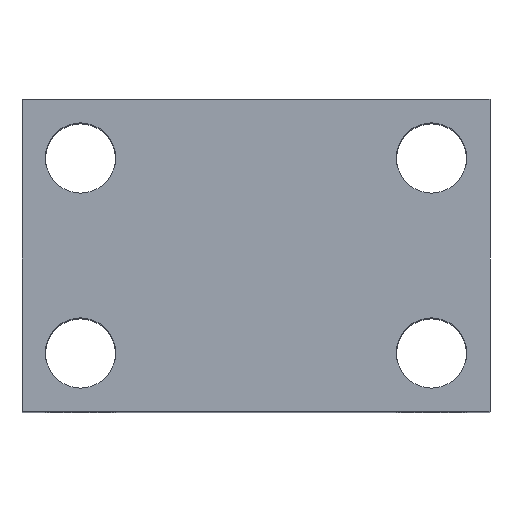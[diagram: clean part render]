
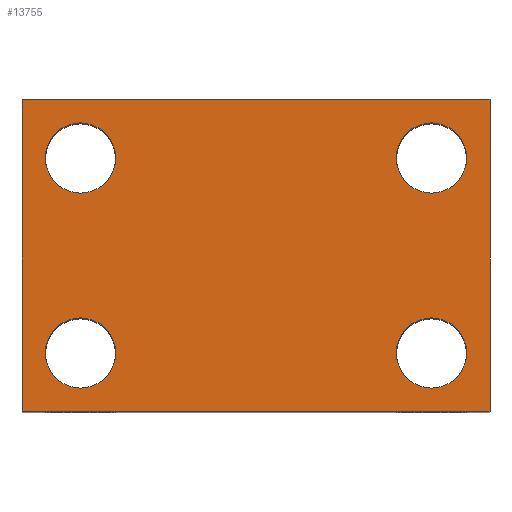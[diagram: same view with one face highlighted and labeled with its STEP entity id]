
A CAD part, top view. The second image highlights one B-rep face of the part: STEP entity #13755.
In plain terms, the highlighted planar face has unit normal (0, 0, 1).
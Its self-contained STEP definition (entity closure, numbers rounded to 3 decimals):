
#413 = DIRECTION ( 'NONE',  ( 0., -1., 0. ) ) ;
#445 = CARTESIAN_POINT ( 'NONE',  ( 27., 32.5, 40. ) ) ;
#467 = AXIS2_PLACEMENT_3D ( 'NONE', #13522, #5361, #14906 ) ;
#518 = AXIS2_PLACEMENT_3D ( 'NONE', #5991, #15585, #7338 ) ;
#599 = EDGE_CURVE ( 'NONE', #2983, #1785, #6559, .T. ) ;
#1144 = CARTESIAN_POINT ( 'NONE',  ( -30., 0., 40. ) ) ;
#1333 = EDGE_CURVE ( 'NONE', #9716, #10566, #11053, .T. ) ;
#1338 = DIRECTION ( 'NONE',  ( -1., 0., 0. ) ) ;
#1384 = CARTESIAN_POINT ( 'NONE',  ( 30., 40., 40. ) ) ;
#1390 = LINE ( 'NONE', #1384, #12254 ) ;
#1785 = VERTEX_POINT ( 'NONE', #10095 ) ;
#1889 = AXIS2_PLACEMENT_3D ( 'NONE', #10500, #2331, #11868 ) ;
#2020 = EDGE_LOOP ( 'NONE', ( #2799, #5169 ) ) ;
#2238 = ORIENTED_EDGE ( 'NONE', *, *, #11308, .T. ) ;
#2331 = DIRECTION ( 'NONE',  ( 0., 0., -1. ) ) ;
#2418 = AXIS2_PLACEMENT_3D ( 'NONE', #13707, #4185, #12339 ) ;
#2578 = EDGE_LOOP ( 'NONE', ( #4053, #2651 ) ) ;
#2651 = ORIENTED_EDGE ( 'NONE', *, *, #599, .T. ) ;
#2736 = DIRECTION ( 'NONE',  ( 0., -1., 0. ) ) ;
#2786 = ORIENTED_EDGE ( 'NONE', *, *, #3379, .T. ) ;
#2799 = ORIENTED_EDGE ( 'NONE', *, *, #17257, .T. ) ;
#2963 = VERTEX_POINT ( 'NONE', #9382 ) ;
#2983 = VERTEX_POINT ( 'NONE', #6708 ) ;
#3193 = AXIS2_PLACEMENT_3D ( 'NONE', #4541, #14075, #5892 ) ;
#3207 = CARTESIAN_POINT ( 'NONE',  ( 27., 7.5, 40. ) ) ;
#3379 = EDGE_CURVE ( 'NONE', #10566, #9716, #9279, .T. ) ;
#3730 = LINE ( 'NONE', #5467, #7730 ) ;
#4053 = ORIENTED_EDGE ( 'NONE', *, *, #7753, .T. ) ;
#4148 = CIRCLE ( 'NONE', #8095, 4.5 ) ;
#4185 = DIRECTION ( 'NONE',  ( 0., 0., -1. ) ) ;
#4415 = FACE_BOUND ( 'NONE', #6412, .T. ) ;
#4541 = CARTESIAN_POINT ( 'NONE',  ( 22.5, 7.5, 40. ) ) ;
#4584 = ORIENTED_EDGE ( 'NONE', *, *, #6001, .T. ) ;
#4588 = PLANE ( 'NONE',  #13801 ) ;
#4915 = VECTOR ( 'NONE', #413, 1000. ) ;
#5169 = ORIENTED_EDGE ( 'NONE', *, *, #8064, .T. ) ;
#5205 = ORIENTED_EDGE ( 'NONE', *, *, #1333, .T. ) ;
#5361 = DIRECTION ( 'NONE',  ( 0., 0., -1. ) ) ;
#5467 = CARTESIAN_POINT ( 'NONE',  ( -30., 40., 40. ) ) ;
#5502 = ORIENTED_EDGE ( 'NONE', *, *, #17308, .F. ) ;
#5735 = EDGE_LOOP ( 'NONE', ( #4584, #5502, #7650, #2238 ) ) ;
#5892 = DIRECTION ( 'NONE',  ( -1., 0., 0. ) ) ;
#5933 = CARTESIAN_POINT ( 'NONE',  ( -30., 40., 40. ) ) ;
#5991 = CARTESIAN_POINT ( 'NONE',  ( -22.5, 7.5, 40. ) ) ;
#5997 = EDGE_LOOP ( 'NONE', ( #8961, #9920 ) ) ;
#6001 = EDGE_CURVE ( 'NONE', #10831, #9207, #16578, .T. ) ;
#6005 = CARTESIAN_POINT ( 'NONE',  ( -22.5, 32.5, 40. ) ) ;
#6412 = EDGE_LOOP ( 'NONE', ( #5205, #2786 ) ) ;
#6559 = CIRCLE ( 'NONE', #2418, 4.5 ) ;
#6708 = CARTESIAN_POINT ( 'NONE',  ( -18., 32.5, 40. ) ) ;
#7101 = CARTESIAN_POINT ( 'NONE',  ( 18., 32.5, 40. ) ) ;
#7172 = DIRECTION ( 'NONE',  ( -1., 0., 0. ) ) ;
#7276 = DIRECTION ( 'NONE',  ( -1., 0., 0. ) ) ;
#7338 = DIRECTION ( 'NONE',  ( -1., 0., 0. ) ) ;
#7350 = DIRECTION ( 'NONE',  ( -1., 0., 0. ) ) ;
#7650 = ORIENTED_EDGE ( 'NONE', *, *, #17415, .F. ) ;
#7730 = VECTOR ( 'NONE', #15022, 1000. ) ;
#7753 = EDGE_CURVE ( 'NONE', #1785, #2983, #4148, .T. ) ;
#7982 = FACE_BOUND ( 'NONE', #5997, .T. ) ;
#8025 = CARTESIAN_POINT ( 'NONE',  ( 30., 0., 40. ) ) ;
#8064 = EDGE_CURVE ( 'NONE', #16974, #2963, #8357, .T. ) ;
#8095 = AXIS2_PLACEMENT_3D ( 'NONE', #6005, #15599, #7350 ) ;
#8357 = CIRCLE ( 'NONE', #518, 4.5 ) ;
#8440 = AXIS2_PLACEMENT_3D ( 'NONE', #10687, #8735, #7172 ) ;
#8505 = CARTESIAN_POINT ( 'NONE',  ( 30., 40., 40. ) ) ;
#8597 = AXIS2_PLACEMENT_3D ( 'NONE', #17744, #9469, #1338 ) ;
#8614 = CARTESIAN_POINT ( 'NONE',  ( -18., 7.5, 40. ) ) ;
#8633 = CIRCLE ( 'NONE', #1889, 4.5 ) ;
#8735 = DIRECTION ( 'NONE',  ( 0., 0., -1. ) ) ;
#8839 = FACE_BOUND ( 'NONE', #2020, .T. ) ;
#8961 = ORIENTED_EDGE ( 'NONE', *, *, #13434, .T. ) ;
#9207 = VERTEX_POINT ( 'NONE', #8025 ) ;
#9279 = CIRCLE ( 'NONE', #3193, 4.5 ) ;
#9382 = CARTESIAN_POINT ( 'NONE',  ( -27., 7.5, 40. ) ) ;
#9469 = DIRECTION ( 'NONE',  ( 0., 0., -1. ) ) ;
#9659 = VECTOR ( 'NONE', #17001, 1000. ) ;
#9716 = VERTEX_POINT ( 'NONE', #14703 ) ;
#9920 = ORIENTED_EDGE ( 'NONE', *, *, #13164, .T. ) ;
#10095 = CARTESIAN_POINT ( 'NONE',  ( -27., 32.5, 40. ) ) ;
#10500 = CARTESIAN_POINT ( 'NONE',  ( 22.5, 32.5, 40. ) ) ;
#10566 = VERTEX_POINT ( 'NONE', #3207 ) ;
#10687 = CARTESIAN_POINT ( 'NONE',  ( 22.5, 7.5, 40. ) ) ;
#10831 = VERTEX_POINT ( 'NONE', #1144 ) ;
#11053 = CIRCLE ( 'NONE', #8440, 4.5 ) ;
#11308 = EDGE_CURVE ( 'NONE', #13223, #10831, #15852, .T. ) ;
#11647 = FACE_OUTER_BOUND ( 'NONE', #5735, .T. ) ;
#11832 = VERTEX_POINT ( 'NONE', #445 ) ;
#11868 = DIRECTION ( 'NONE',  ( -1., 0., 0. ) ) ;
#12074 = FACE_BOUND ( 'NONE', #2578, .T. ) ;
#12254 = VECTOR ( 'NONE', #2736, 1000. ) ;
#12339 = DIRECTION ( 'NONE',  ( -1., 0., 0. ) ) ;
#12855 = VERTEX_POINT ( 'NONE', #8505 ) ;
#13111 = CIRCLE ( 'NONE', #467, 4.5 ) ;
#13164 = EDGE_CURVE ( 'NONE', #11832, #16057, #17299, .T. ) ;
#13223 = VERTEX_POINT ( 'NONE', #13792 ) ;
#13434 = EDGE_CURVE ( 'NONE', #16057, #11832, #8633, .T. ) ;
#13522 = CARTESIAN_POINT ( 'NONE',  ( -22.5, 7.5, 40. ) ) ;
#13707 = CARTESIAN_POINT ( 'NONE',  ( -22.5, 32.5, 40. ) ) ;
#13755 = ADVANCED_FACE ( 'NONE', ( #12074, #8839, #4415, #7982, #11647 ), #4588, .F. ) ;
#13792 = CARTESIAN_POINT ( 'NONE',  ( -30., 40., 40. ) ) ;
#13801 = AXIS2_PLACEMENT_3D ( 'NONE', #5933, #15471, #7276 ) ;
#14075 = DIRECTION ( 'NONE',  ( 0., 0., -1. ) ) ;
#14089 = CARTESIAN_POINT ( 'NONE',  ( -30., 40., 40. ) ) ;
#14703 = CARTESIAN_POINT ( 'NONE',  ( 18., 7.5, 40. ) ) ;
#14906 = DIRECTION ( 'NONE',  ( -1., 0., 0. ) ) ;
#15022 = DIRECTION ( 'NONE',  ( 1., 0., 0. ) ) ;
#15471 = DIRECTION ( 'NONE',  ( 0., 0., -1. ) ) ;
#15585 = DIRECTION ( 'NONE',  ( 0., 0., -1. ) ) ;
#15593 = CARTESIAN_POINT ( 'NONE',  ( -30., 0., 40. ) ) ;
#15599 = DIRECTION ( 'NONE',  ( 0., 0., -1. ) ) ;
#15852 = LINE ( 'NONE', #14089, #4915 ) ;
#16057 = VERTEX_POINT ( 'NONE', #7101 ) ;
#16578 = LINE ( 'NONE', #15593, #9659 ) ;
#16974 = VERTEX_POINT ( 'NONE', #8614 ) ;
#17001 = DIRECTION ( 'NONE',  ( 1., 0., 0. ) ) ;
#17257 = EDGE_CURVE ( 'NONE', #2963, #16974, #13111, .T. ) ;
#17299 = CIRCLE ( 'NONE', #8597, 4.5 ) ;
#17308 = EDGE_CURVE ( 'NONE', #12855, #9207, #1390, .T. ) ;
#17415 = EDGE_CURVE ( 'NONE', #13223, #12855, #3730, .T. ) ;
#17744 = CARTESIAN_POINT ( 'NONE',  ( 22.5, 32.5, 40. ) ) ;
